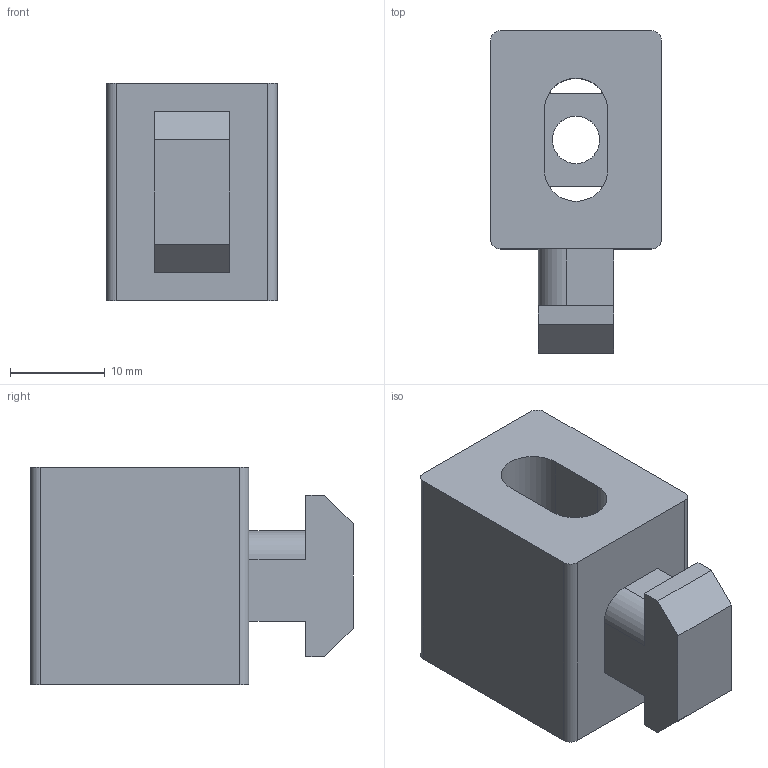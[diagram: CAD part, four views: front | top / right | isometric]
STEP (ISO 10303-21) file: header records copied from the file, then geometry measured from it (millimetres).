
FILE_DESCRIPTION (( 'STEP AP203' ), '1' );
FILE_NAME ('CP-MB-1045X45.STEP', '2018-09-03T09:06:59', ( '' ), ( '' ), 'SwSTEP 2.0', 'SolidWorks 2013', '' );
FILE_SCHEMA (( 'CONFIG_CONTROL_DESIGN' ));
Length unit declared in the file: millimetre
Products named in the file (1): CP-MB-1045X45
Bounding box: 18 x 34 x 23 mm (x, y, z)
Volume: 8507.9 mm3; surface area: 4464.2 mm2
Topology: 2 solids, 2 shells, 48 faces, 126 edges, 84 vertices
Faces by surface type: plane 32, cylinder 16
Entity records: 1571 total; most frequent: CARTESIAN_POINT 259, DIRECTION 256, ORIENTED_EDGE 252, EDGE_CURVE 126, VECTOR 94, LINE 94, VERTEX_POINT 84, AXIS2_PLACEMENT_3D 81
